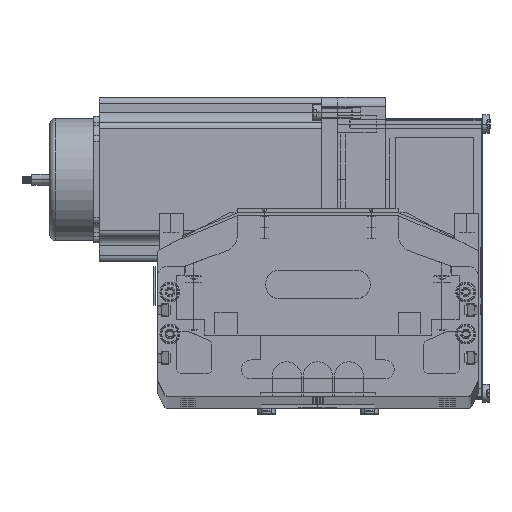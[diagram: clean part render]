
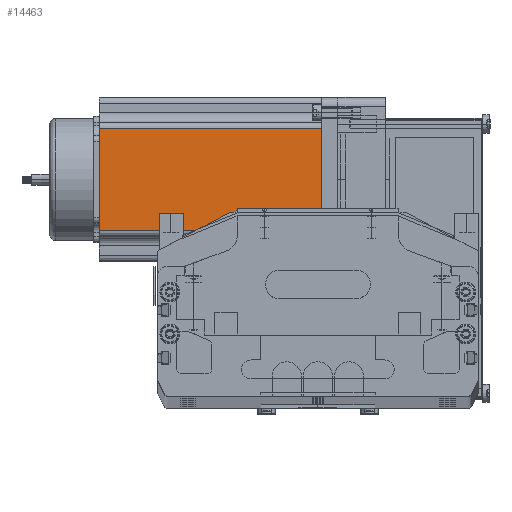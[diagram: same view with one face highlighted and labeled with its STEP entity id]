
A CAD part, top view. The second image highlights one B-rep face of the part: STEP entity #14463.
In plain terms, the highlighted planar face has unit normal (0, 0, 1) as drawn and (0, -1, 0) by its records, which use the part's own axes.
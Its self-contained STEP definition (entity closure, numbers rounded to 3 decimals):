
#14462 = ORIENTED_EDGE ( 'NONE', *, *, #14471, .T. ) ;
#14463 = ADVANCED_FACE ( 'NONE', ( #40568 ), #40534, .F. ) ;
#14464 = ORIENTED_EDGE ( 'NONE', *, *, #14466, .T. ) ;
#14465 = ORIENTED_EDGE ( 'NONE', *, *, #14467, .T. ) ;
#14466 = EDGE_CURVE ( 'NONE', #14732, #14736, #40479, .T. ) ;
#14467 = EDGE_CURVE ( 'NONE', #14655, #14732, #40449, .T. ) ;
#14469 = EDGE_CURVE ( 'NONE', #14735, #14736, #40625, .T. ) ;
#14471 = EDGE_CURVE ( 'NONE', #14735, #14655, #40616, .T. ) ;
#14655 = VERTEX_POINT ( 'NONE', #42949 ) ;
#14732 = VERTEX_POINT ( 'NONE', #45031 ) ;
#14735 = VERTEX_POINT ( 'NONE', #44881 ) ;
#14736 = VERTEX_POINT ( 'NONE', #44800 ) ;
#14740 = ORIENTED_EDGE ( 'NONE', *, *, #14469, .F. ) ;
#14741 = EDGE_LOOP ( 'NONE', ( #14465, #14464, #14740, #14462 ) ) ;
#40409 = VECTOR ( 'NONE', #40585, 1000. ) ;
#40449 = LINE ( 'NONE', #40586, #40409 ) ;
#40479 = LINE ( 'NONE', #40694, #40692 ) ;
#40516 = AXIS2_PLACEMENT_3D ( 'NONE', #40654, #40590, #40588 ) ;
#40534 = PLANE ( 'NONE',  #40516 ) ;
#40568 = FACE_OUTER_BOUND ( 'NONE', #14741, .T. ) ;
#40585 = DIRECTION ( 'NONE',  ( 1., 0., 0. ) ) ;
#40586 = CARTESIAN_POINT ( 'NONE',  ( 0., 0., 0. ) ) ;
#40588 = DIRECTION ( 'NONE',  ( 0., 0., 1. ) ) ;
#40590 = DIRECTION ( 'NONE',  ( 0., 1., 0. ) ) ;
#40614 = CARTESIAN_POINT ( 'NONE',  ( 16.16, 0., 116.5 ) ) ;
#40616 = LINE ( 'NONE', #40614, #40726 ) ;
#40620 = DIRECTION ( 'NONE',  ( 1., 0., 0. ) ) ;
#40621 = VECTOR ( 'NONE', #40620, 1000. ) ;
#40623 = CARTESIAN_POINT ( 'NONE',  ( 0., 0., 116.5 ) ) ;
#40625 = LINE ( 'NONE', #40623, #40621 ) ;
#40654 = CARTESIAN_POINT ( 'NONE',  ( 0., 0., 116.5 ) ) ;
#40691 = DIRECTION ( 'NONE',  ( 0., 0., 1. ) ) ;
#40692 = VECTOR ( 'NONE', #40691, 1000. ) ;
#40694 = CARTESIAN_POINT ( 'NONE',  ( 69.74, 0., 116.5 ) ) ;
#40724 = DIRECTION ( 'NONE',  ( 0., 0., -1. ) ) ;
#40726 = VECTOR ( 'NONE', #40724, 1000. ) ;
#42949 = CARTESIAN_POINT ( 'NONE',  ( 16.16, 0., 0. ) ) ;
#44800 = CARTESIAN_POINT ( 'NONE',  ( 69.74, 0., 116.5 ) ) ;
#44881 = CARTESIAN_POINT ( 'NONE',  ( 16.16, 0., 116.5 ) ) ;
#45031 = CARTESIAN_POINT ( 'NONE',  ( 69.74, 0., 0. ) ) ;
